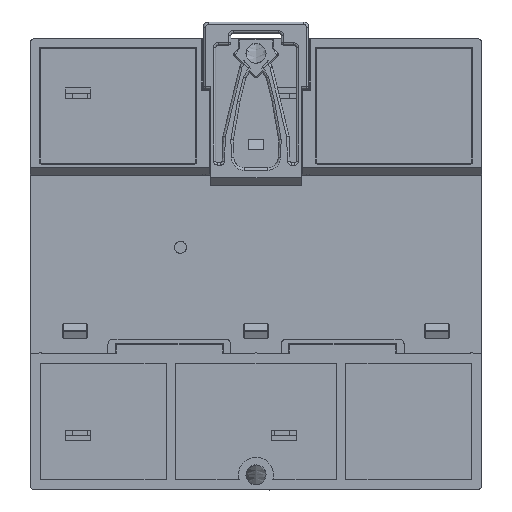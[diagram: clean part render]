
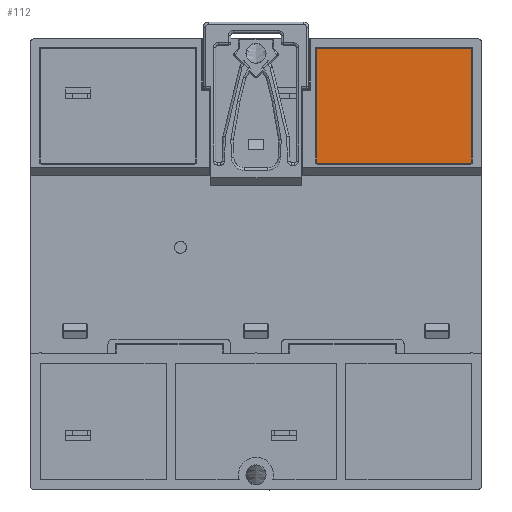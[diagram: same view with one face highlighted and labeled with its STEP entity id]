
A CAD part, front view. The second image highlights one B-rep face of the part: STEP entity #112.
In plain terms, the highlighted planar face has unit normal (0, -1, 0).
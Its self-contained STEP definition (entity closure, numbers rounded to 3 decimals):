
#112=ADVANCED_FACE('',(#3194),#45421,.T.);
#3194=FACE_OUTER_BOUND('',#5898,.T.);
#5898=EDGE_LOOP('',(#9083,#9084,#9085,#9086,#9087,#9088,#9089,#9090));
#9083=ORIENTED_EDGE('',*,*,#24504,.T.);
#9084=ORIENTED_EDGE('',*,*,#24366,.T.);
#9085=ORIENTED_EDGE('',*,*,#24509,.T.);
#9086=ORIENTED_EDGE('',*,*,#24365,.T.);
#9087=ORIENTED_EDGE('',*,*,#24514,.T.);
#9088=ORIENTED_EDGE('',*,*,#24364,.T.);
#9089=ORIENTED_EDGE('',*,*,#24519,.T.);
#9090=ORIENTED_EDGE('',*,*,#24363,.T.);
#24363=EDGE_CURVE('',#39716,#39714,#33424,.T.);
#24364=EDGE_CURVE('',#39718,#39717,#33425,.T.);
#24365=EDGE_CURVE('',#39720,#39719,#33426,.T.);
#24366=EDGE_CURVE('',#39715,#39721,#33427,.T.);
#24504=EDGE_CURVE('',#39714,#39715,#31971,.T.);
#24509=EDGE_CURVE('',#39721,#39720,#31973,.T.);
#24514=EDGE_CURVE('',#39719,#39718,#31975,.T.);
#24519=EDGE_CURVE('',#39717,#39716,#31977,.T.);
#31971=(
BOUNDED_CURVE()
B_SPLINE_CURVE(2,(#76082,#76083,#76084),.UNSPECIFIED.,.F.,.F.)
B_SPLINE_CURVE_WITH_KNOTS((3,3),(0.,0.314),.UNSPECIFIED.)
CURVE()
GEOMETRIC_REPRESENTATION_ITEM()
RATIONAL_B_SPLINE_CURVE((1.,0.707,1.))
REPRESENTATION_ITEM('')
);
#31973=(
BOUNDED_CURVE()
B_SPLINE_CURVE(2,(#76094,#76095,#76096),.UNSPECIFIED.,.F.,.F.)
B_SPLINE_CURVE_WITH_KNOTS((3,3),(0.,0.314),.UNSPECIFIED.)
CURVE()
GEOMETRIC_REPRESENTATION_ITEM()
RATIONAL_B_SPLINE_CURVE((1.,0.707,1.))
REPRESENTATION_ITEM('')
);
#31975=(
BOUNDED_CURVE()
B_SPLINE_CURVE(2,(#76106,#76107,#76108),.UNSPECIFIED.,.F.,.F.)
B_SPLINE_CURVE_WITH_KNOTS((3,3),(0.,0.314),.UNSPECIFIED.)
CURVE()
GEOMETRIC_REPRESENTATION_ITEM()
RATIONAL_B_SPLINE_CURVE((1.,0.707,1.))
REPRESENTATION_ITEM('')
);
#31977=(
BOUNDED_CURVE()
B_SPLINE_CURVE(2,(#76118,#76119,#76120),.UNSPECIFIED.,.F.,.F.)
B_SPLINE_CURVE_WITH_KNOTS((3,3),(0.,0.314),.UNSPECIFIED.)
CURVE()
GEOMETRIC_REPRESENTATION_ITEM()
RATIONAL_B_SPLINE_CURVE((1.,0.707,1.))
REPRESENTATION_ITEM('')
);
#33424=B_SPLINE_CURVE_WITH_KNOTS('',1,(#75715,#75716),.UNSPECIFIED.,.F.,
 .F.,(2,2),(-30.6,0.),.UNSPECIFIED.);
#33425=B_SPLINE_CURVE_WITH_KNOTS('',1,(#75717,#75718),.UNSPECIFIED.,.F.,
 .F.,(2,2),(-22.45,0.),.UNSPECIFIED.);
#33426=B_SPLINE_CURVE_WITH_KNOTS('',1,(#75719,#75720),.UNSPECIFIED.,.F.,
 .F.,(2,2),(-30.6,0.),.UNSPECIFIED.);
#33427=B_SPLINE_CURVE_WITH_KNOTS('',1,(#75721,#75722),.UNSPECIFIED.,.F.,
 .F.,(2,2),(-22.45,0.),.UNSPECIFIED.);
#39714=VERTEX_POINT('',#73861);
#39715=VERTEX_POINT('',#73862);
#39716=VERTEX_POINT('',#73863);
#39717=VERTEX_POINT('',#73864);
#39718=VERTEX_POINT('',#73865);
#39719=VERTEX_POINT('',#73866);
#39720=VERTEX_POINT('',#73867);
#39721=VERTEX_POINT('',#73868);
#45421=PLANE('',#47287);
#47287=AXIS2_PLACEMENT_3D('',#50789,#49032,$);
#49032=DIRECTION('',(0.,-1.,0.));
#50789=CARTESIAN_POINT('',(46.267,3.,45.452));
#73861=CARTESIAN_POINT('',(12.2,3.,43.));
#73862=CARTESIAN_POINT('',(12.,3.,42.8));
#73863=CARTESIAN_POINT('',(42.8,3.,43.));
#73864=CARTESIAN_POINT('',(43.,3.,42.8));
#73865=CARTESIAN_POINT('',(43.,3.,20.35));
#73866=CARTESIAN_POINT('',(42.8,3.,20.15));
#73867=CARTESIAN_POINT('',(12.2,3.,20.15));
#73868=CARTESIAN_POINT('',(12.,3.,20.35));
#75715=CARTESIAN_POINT('',(42.8,3.,43.));
#75716=CARTESIAN_POINT('',(12.2,3.,43.));
#75717=CARTESIAN_POINT('',(43.,3.,20.35));
#75718=CARTESIAN_POINT('',(43.,3.,42.8));
#75719=CARTESIAN_POINT('',(12.2,3.,20.15));
#75720=CARTESIAN_POINT('',(42.8,3.,20.15));
#75721=CARTESIAN_POINT('',(12.,3.,42.8));
#75722=CARTESIAN_POINT('',(12.,3.,20.35));
#76082=CARTESIAN_POINT('',(12.2,3.,43.));
#76083=CARTESIAN_POINT('',(12.,3.,43.));
#76084=CARTESIAN_POINT('',(12.,3.,42.8));
#76094=CARTESIAN_POINT('',(12.,3.,20.35));
#76095=CARTESIAN_POINT('',(12.,3.,20.15));
#76096=CARTESIAN_POINT('',(12.2,3.,20.15));
#76106=CARTESIAN_POINT('',(42.8,3.,20.15));
#76107=CARTESIAN_POINT('',(43.,3.,20.15));
#76108=CARTESIAN_POINT('',(43.,3.,20.35));
#76118=CARTESIAN_POINT('',(43.,3.,42.8));
#76119=CARTESIAN_POINT('',(43.,3.,43.));
#76120=CARTESIAN_POINT('',(42.8,3.,43.));
